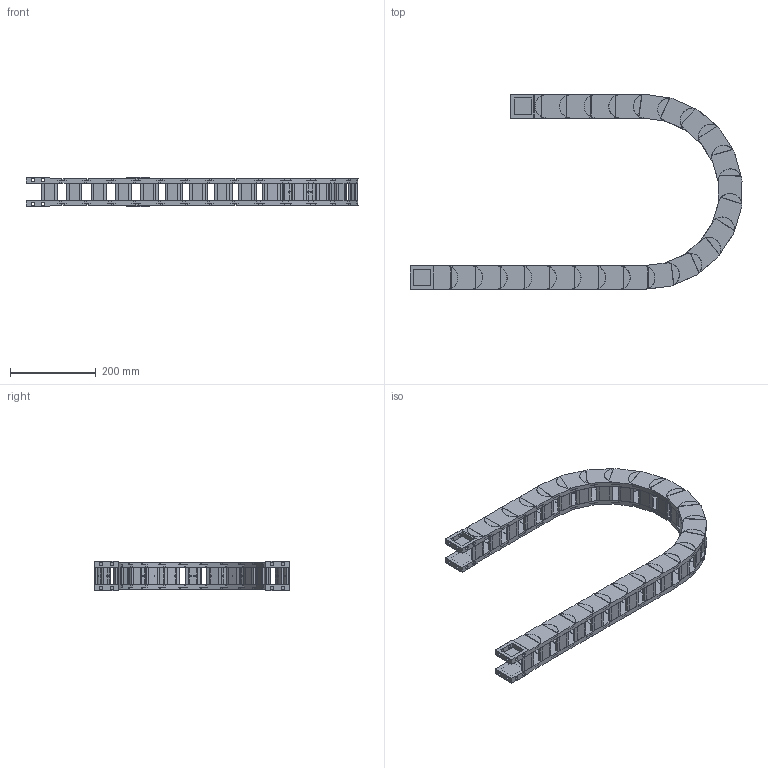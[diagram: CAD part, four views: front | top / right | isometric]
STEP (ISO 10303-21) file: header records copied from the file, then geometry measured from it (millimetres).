
FILE_DESCRIPTION((''),'2;1');
FILE_NAME('HD35-R200-ZPT_ASM','2022-06-17T16:01:22',('admin'),(''),'CREO PARAMETRIC BY PTC INC, 2021164','CREO PARAMETRIC BY PTC INC, 2021164','');
FILE_SCHEMA(('CONFIG_CONTROL_DESIGN','GEOMETRIC_VALIDATION_PROPERTIES_MIM'));
Length unit declared in the file: millimetre
Products named in the file (6): HD35; 35-600001; HD35_ASM; 35-TL_11; 35-WL; HD35-R200-ZPT_ASM
Assembly tree (29 placements, depth 3):
  HD35-R200-ZPT_ASM
    HD35_ASM  x23
      HD35
      35-600001
    35-TL_11
    35-WL
    35-600001  x2
Bounding box: 775.24 x 454.93 x 68 mm (x, y, z)
Volume: 2571471.9 mm3; surface area: 990118.8 mm2
Topology: 100 solids, 100 shells, 1858 faces, 4946 edges, 3392 vertices
Faces by surface type: plane 1268, cylinder 590
Entity records: 9467 total; most frequent: DIRECTION 1432, CARTESIAN_POINT 1422, ORIENTED_EDGE 1300, EDGE_CURVE 650, AXIS2_PLACEMENT_3D 511, VERTEX_POINT 440, VECTOR 410, LINE 410
